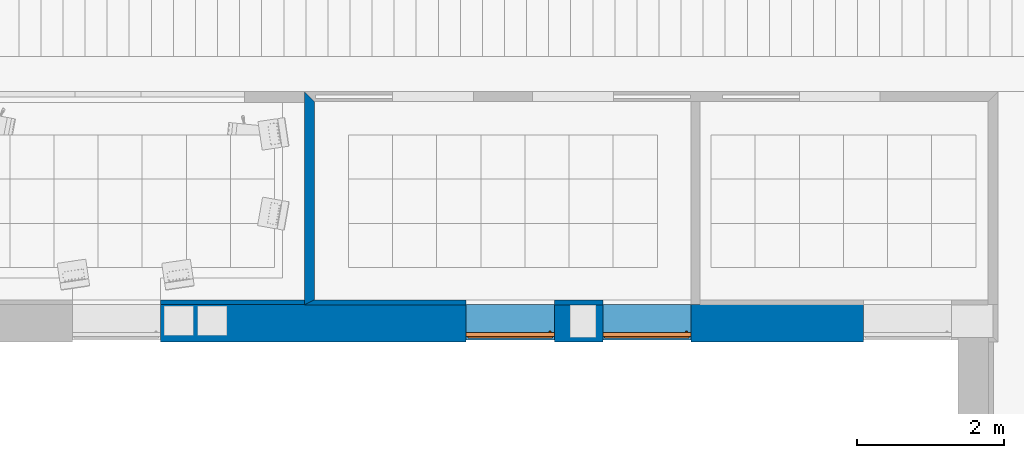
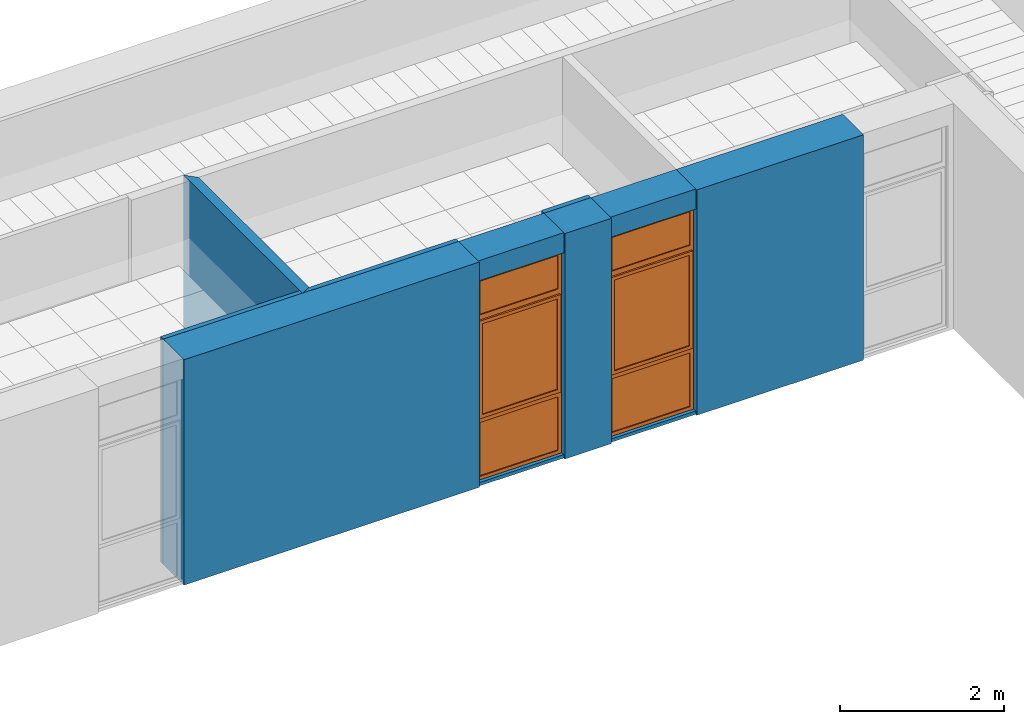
# One storey, part 39 of 68: 9 walls, 2 proxies, 2 openings.
"""IFC2X3 building model written with IfcOpenShell, lengths in millimetres."""

import ifcopenshell
import ifcopenshell.guid

model = None  # the IFC model being written
_history = None  # IfcOwnerHistory: only IFC2X3 demands one
_inside = {}  # id of a spatial element -> (the spatial element, [elements in it])
_under = {}  # id of a project, library or spatial element -> (it, [spatial elements below it])
_declared = {}  # id of a project -> (the project, [libraries it declares])
_typed = {}  # id of a type object -> (the type object, [elements of that type])
_made_of = {}  # id of a material, layer set ... -> (it, [elements and type objects made of it])


def new_model(schema):
    """Start an empty IFC model of exactly this schema.

    Asked for "IFC4X3", IfcOpenShell would pick the latest addendum, in which some entities
    have other attributes; the version numbers below select the first issue.
    IFC2X3 requires an IfcOwnerHistory on every rooted entity: one is made here for all.
    """
    global model, _history
    if schema == "IFC4X3":
        model = ifcopenshell.file(schema_version=(4, 3, 0, 0))
    else:
        model = ifcopenshell.file(schema=schema)
    _inside.clear()
    _under.clear()
    _declared.clear()
    _typed.clear()
    _made_of.clear()
    _history = None
    if model.schema == "IFC2X3":
        org = make("IfcOrganization", Name="unknown")
        user = make(
            "IfcPersonAndOrganization",
            ThePerson=make("IfcPerson", FamilyName="unknown"),
            TheOrganization=org,
        )
        app = make(
            "IfcApplication",
            ApplicationDeveloper=org,
            Version="unknown",
            ApplicationFullName="unknown",
            ApplicationIdentifier="unknown",
        )
        _history = make(
            "IfcOwnerHistory",
            OwningUser=user,
            OwningApplication=app,
            ChangeAction="ADDED",
            CreationDate=0,
        )
    return model


def make(cls, **values):
    """One entity of the class cls with the attributes given. An attribute that is None is left unset."""
    return model.create_entity(
        cls, **{name: value for name, value in values.items() if value is not None}
    )


def entity(cls, *values):
    """Any entity or typed value of the class cls, its attributes in the order of the schema. None: left unset."""
    e = model.create_entity(cls)
    for i, value in enumerate(values):
        if value is not None:
            e[i] = value
    return e


def rooted(cls, **values):
    """An entity with a GlobalId (a new one), such as an element, a storey or a relation."""
    return make(cls, GlobalId=ifcopenshell.guid.new(), OwnerHistory=_history, **values)


def si_unit(unit_type, name, prefix=None):
    """IfcSIUnit, for example si_unit("LENGTHUNIT", "METRE", prefix="MILLI")."""
    return make("IfcSIUnit", UnitType=unit_type, Prefix=prefix, Name=name)


def converted_unit(unit_type, name, factor, base, dimensions=None, offset=None):
    """IfcConversionBasedUnit, such as the inch: factor (a typed value) times the base unit."""
    return make(
        "IfcConversionBasedUnit"
        if offset is None
        else "IfcConversionBasedUnitWithOffset",
        ConversionOffset=offset,
        Dimensions=None
        if dimensions is None
        else entity("IfcDimensionalExponents", *dimensions),
        UnitType=unit_type,
        Name=name,
        ConversionFactor=make(
            "IfcMeasureWithUnit", ValueComponent=factor, UnitComponent=base
        ),
    )


def derived_unit(unit_type, elements):
    """IfcDerivedUnit: a product of units, each with its exponent."""
    return make(
        "IfcDerivedUnit",
        Elements=[
            make("IfcDerivedUnitElement", Unit=unit, Exponent=power)
            for unit, power in elements
        ],
        UnitType=unit_type,
    )


def money_unit(currency):
    """IfcMonetaryUnit."""
    return make("IfcMonetaryUnit", Currency=currency)


def assignment(units):
    """IfcUnitAssignment: the units of a project."""
    return None if units is None else make("IfcUnitAssignment", Units=units)


def point(xyz):
    """IfcCartesianPoint."""
    return None if xyz is None else make("IfcCartesianPoint", Coordinates=xyz)


def direction(xyz):
    """IfcDirection."""
    return None if xyz is None else make("IfcDirection", DirectionRatios=xyz)


def frame(location, z_axis=None, x_axis=None):
    """IfcAxis2Placement3D, a coordinate frame: its origin and axes. An axis left out is left unset."""
    return make(
        "IfcAxis2Placement3D",
        Location=point(location),
        Axis=direction(z_axis),
        RefDirection=direction(x_axis),
    )


def frame_2d(location, x_axis=None):
    """IfcAxis2Placement2D, a coordinate frame in the plane: its origin and x axis."""
    return make(
        "IfcAxis2Placement2D", Location=point(location), RefDirection=direction(x_axis)
    )


def origin_with_axes():
    """The frame at (0, 0, 0) with the z axis (0, 0, 1) and the x axis (1, 0, 0) written out."""
    return frame((0.0, 0.0, 0.0), z_axis=(0.0, 0.0, 1.0), x_axis=(1.0, 0.0, 0.0))


def origin_2d_with_axis():
    """The frame at (0, 0) in the plane with the x axis (1, 0) written out."""
    return frame_2d((0.0, 0.0), x_axis=(1.0, 0.0))


def place(relative_to, where):
    """IfcLocalPlacement: puts the frame where relative to a parent placement (None: the world)."""
    return make(
        "IfcLocalPlacement", PlacementRelTo=relative_to, RelativePlacement=where
    )


def context(
    kind, dimensions, precision=None, world=None, true_north=None, identifier=None
):
    """IfcGeometricRepresentationContext, for example the 3D "Model" context."""
    return make(
        "IfcGeometricRepresentationContext",
        ContextIdentifier=identifier,
        ContextType=kind,
        CoordinateSpaceDimension=dimensions,
        Precision=precision,
        WorldCoordinateSystem=world,
        TrueNorth=true_north,
    )


def subcontext(parent, identifier, kind, view, scale=None):
    """IfcGeometricRepresentationSubContext, for example "Body" below "Model"."""
    return make(
        "IfcGeometricRepresentationSubContext",
        ContextIdentifier=identifier,
        ContextType=kind,
        ParentContext=parent,
        TargetScale=scale,
        TargetView=view,
    )


def project(units=None, contexts=None):
    """IfcProject with its units and contexts."""
    return rooted(
        "IfcProject",
        Name="project",
        RepresentationContexts=contexts,
        UnitsInContext=assignment(units),
    )


def spatial(cls, under=None, at=None, **own):
    """A site, building, storey or space (cls), placed at a placement, below another one or the project."""
    s = rooted(cls, ObjectPlacement=at, **own)
    if under is not None:
        _under.setdefault(under.id(), (under, []))[1].append(s)
    return s


def polyline(points):
    """IfcPolyline through the points."""
    return make("IfcPolyline", Points=[point(p) for p in points])


def profile(cls, at=None, kind="AREA", **sizes):
    """A parametric profile (cls). Its sizes go by their IFC names, for example OverallWidth=200.0."""
    return make(cls, ProfileType=kind, Position=at, **sizes)


def rectangle(**sizes):
    """IfcRectangleProfileDef."""
    return profile("IfcRectangleProfileDef", **sizes)


def outline(outer, holes=None, kind="AREA"):
    """IfcArbitraryClosedProfileDef: a profile drawn as a closed curve; with holes, ...WithVoids."""
    if holes is None:
        return make("IfcArbitraryClosedProfileDef", ProfileType=kind, OuterCurve=outer)
    return make(
        "IfcArbitraryProfileDefWithVoids",
        ProfileType=kind,
        OuterCurve=outer,
        InnerCurves=holes,
    )


def extrude(swept, where, along, depth):
    """IfcExtrudedAreaSolid: the profile swept, set in the frame where, extruded along a direction by depth."""
    return make(
        "IfcExtrudedAreaSolid",
        SweptArea=swept,
        Position=where,
        ExtrudedDirection=direction(along),
        Depth=depth,
    )


def faces_of(points, faces, orient=None, outer=None):
    """IfcFace entities. A face is a list of loops; a loop is a list of indices into points, from 0.

    orient and outer hold one flag for each loop. By default every Orientation is true, the
    first loop of a face is its IfcFaceOuterBound and the others are IfcFaceBound.
    """
    made = []
    for i, loops in enumerate(faces):
        bounds = []
        for j, loop in enumerate(loops):
            is_outer = j == 0 if outer is None else outer[i][j]
            bounds.append(
                make(
                    "IfcFaceOuterBound" if is_outer else "IfcFaceBound",
                    Bound=make("IfcPolyLoop", Polygon=[points[k] for k in loop]),
                    Orientation=True if orient is None else orient[i][j],
                )
            )
        made.append(make("IfcFace", Bounds=bounds))
    return made


def open_shell(faces, orient=None, outer=None):
    """The faces of one IfcOpenShell. surface_model builds it on its shared points."""
    return ("IfcOpenShell", faces, orient, outer)


def faceted_brep(points, faces, orient=None, outer=None, voids=None):
    """IfcFacetedBrep: a solid bounded by flat faces; with voids (closed shells), ...WithVoids."""
    shared = [point(p) for p in points]
    hull = make("IfcClosedShell", CfsFaces=faces_of(shared, faces, orient, outer))
    if voids is None:
        return make("IfcFacetedBrep", Outer=hull)
    return make(
        "IfcFacetedBrepWithVoids",
        Outer=hull,
        Voids=[
            make(cls, CfsFaces=faces_of(shared, fs, o, b)) for cls, fs, o, b in voids
        ],
    )


def surface_model(cls, points, shells):
    """IfcFaceBasedSurfaceModel or IfcShellBasedSurfaceModel (cls): surfaces that need not close."""
    shared = [point(p) for p in points]
    made = [make(c, CfsFaces=faces_of(shared, fs, o, b)) for c, fs, o, b in shells]
    if cls == "IfcFaceBasedSurfaceModel":
        return make(cls, FbsmFaces=made)
    return make(cls, SbsmBoundary=made)


def shape(context_of_items, identifier, shape_type, items):
    """IfcShapeRepresentation: the items that make up one representation, for example the "Body"."""
    return make(
        "IfcShapeRepresentation",
        ContextOfItems=context_of_items,
        RepresentationIdentifier=identifier,
        RepresentationType=shape_type,
        Items=items,
    )


def source(mapping_origin, context_of_items, identifier, shape_type, items):
    """IfcRepresentationMap: a shape defined once, which mapped items show again and again."""
    return make(
        "IfcRepresentationMap",
        MappingOrigin=mapping_origin,
        MappedRepresentation=shape(context_of_items, identifier, shape_type, items),
    )


def transform(
    local_origin,
    x_axis=None,
    y_axis=None,
    z_axis=None,
    scale=None,
    scale2=None,
    scale3=None,
    uniform=True,
):
    """IfcCartesianTransformationOperator3D, or its non-uniform kind. x_axis, y_axis, z_axis: its Axis1, 2, 3."""
    if uniform:
        return make(
            "IfcCartesianTransformationOperator3D",
            Axis1=direction(x_axis),
            Axis2=direction(y_axis),
            LocalOrigin=point(local_origin),
            Scale=scale,
            Axis3=direction(z_axis),
        )
    return make(
        "IfcCartesianTransformationOperator3DnonUniform",
        Axis1=direction(x_axis),
        Axis2=direction(y_axis),
        LocalOrigin=point(local_origin),
        Scale=scale,
        Axis3=direction(z_axis),
        Scale2=scale2,
        Scale3=scale3,
    )


def mapped(mapping_source, mapping_target):
    """IfcMappedItem: shows the shape of a source again, moved by a transform."""
    return make(
        "IfcMappedItem", MappingSource=mapping_source, MappingTarget=mapping_target
    )


def material(Name=None, Category=None):
    """IfcMaterial."""
    return make("IfcMaterial", Name=Name, Category=Category)


def layer(
    of_material, thickness, ventilated=None, Name=None, Category=None, Priority=None
):
    """IfcMaterialLayer: one layer of a wall or slab, of a material (None: an air gap)."""
    return make(
        "IfcMaterialLayer",
        Material=of_material,
        LayerThickness=thickness,
        IsVentilated=ventilated,
        Name=Name,
        Category=Category,
        Priority=Priority,
    )


def layer_set(layers, Name=None):
    """IfcMaterialLayerSet."""
    return make("IfcMaterialLayerSet", MaterialLayers=layers, LayerSetName=Name)


def layer_usage(for_layer_set, set_direction, sense, offset, extent=None):
    """IfcMaterialLayerSetUsage: how a layer set lies in its element."""
    return make(
        "IfcMaterialLayerSetUsage",
        ForLayerSet=for_layer_set,
        LayerSetDirection=set_direction,
        DirectionSense=sense,
        OffsetFromReferenceLine=offset,
        ReferenceExtent=extent,
    )


def made_of(thing, what):
    """Note that an element or type object is made of a material, layer set ...; save() writes the relation."""
    if what is not None:
        _made_of.setdefault(what.id(), (what, []))[1].append(thing)
    return thing


def type_object(cls, material=None, **own):
    """A type object (cls), such as IfcWallType, which elements share."""
    return made_of(rooted(cls, **own), material)


def element(
    cls,
    number,
    at=None,
    inside=None,
    cuts=None,
    type_object=None,
    material=None,
    context=None,
    identifier="Body",
    shape_type=None,
    held_by="IfcProductDefinitionShape",
    body=None,
    shapes=None,
    **own,
):
    """One element of the class cls, such as IfcWall. Its Tag is "e" and its number.

    at: its placement. inside: the storey or other place that contains it. cuts: it is an
    opening in that element (IfcRelVoidsElement). A single representation is given by context,
    identifier, shape_type and body (its items); several are given by shapes. held_by: the class
    of the entity that holds the representations. save() writes the other relations.
    """
    e = rooted(cls, Tag="e%d" % number, ObjectPlacement=at, **own)
    if body is not None:
        shapes = [shape(context, identifier, shape_type, body)]
    if shapes is not None:
        e.Representation = make(held_by, Representations=shapes)
    if inside is not None:
        _inside.setdefault(inside.id(), (inside, []))[1].append(e)
    if cuts is not None:
        rooted(
            "IfcRelVoidsElement", RelatingBuildingElement=cuts, RelatedOpeningElement=e
        )
    if type_object is not None:
        _typed.setdefault(type_object.id(), (type_object, []))[1].append(e)
    return made_of(e, material)


def fill(opening, filler):
    """IfcRelFillsElement: the door or window that sits in an opening."""
    return rooted(
        "IfcRelFillsElement",
        RelatingOpeningElement=opening,
        RelatedBuildingElement=filler,
    )


def aggregate(whole, parts):
    """IfcRelAggregates: a whole, such as a stair, and the parts it consists of."""
    return rooted("IfcRelAggregates", RelatingObject=whole, RelatedObjects=parts)


def save(model, path):
    """Write the relations noted so far, then the file.

    IfcRelAggregates (storeys below a building ...), IfcRelContainedInSpatialStructure (elements
    in a storey), IfcRelDefinesByType, IfcRelAssociatesMaterial and IfcRelDeclares: one each for
    every whole, place, type object, material and project.
    """
    for whole, parts in _under.values():
        aggregate(whole, parts)
    for where, things in _inside.values():
        rooted(
            "IfcRelContainedInSpatialStructure",
            RelatedElements=things,
            RelatingStructure=where,
        )
    for kind, things in _typed.values():
        rooted("IfcRelDefinesByType", RelatedObjects=things, RelatingType=kind)
    for what, things in _made_of.values():
        rooted("IfcRelAssociatesMaterial", RelatedObjects=things, RelatingMaterial=what)
    for by, libraries in _declared.values():
        rooted("IfcRelDeclares", RelatingContext=by, RelatedDefinitions=libraries)
    model.write(path)


model = new_model("IFC2X3")

# Units and contexts
model_context = context("Model", 3, precision=0.01, world=origin_with_axes(), true_north=direction((0.0, 1.0)))
body_context = subcontext(model_context, "Body", "Model", "MODEL_VIEW")
ifc_project = project(units=[si_unit("LENGTHUNIT", "METRE", prefix="MILLI"), si_unit("AREAUNIT", "SQUARE_METRE"), si_unit("VOLUMEUNIT", "CUBIC_METRE"), converted_unit("PLANEANGLEUNIT", "DEGREE", entity("IfcPlaneAngleMeasure", 0.0174532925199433), si_unit("PLANEANGLEUNIT", "RADIAN"), dimensions=[0, 0, 0, 0, 0, 0, 0]), money_unit("USD"), converted_unit("TIMEUNIT", "Year", entity("IfcTimeMeasure", 31557600.0), si_unit("TIMEUNIT", "SECOND"), dimensions=[0, 0, 1, 0, 0, 0, 0]), si_unit("MASSUNIT", "GRAM", prefix="KILO"), si_unit("THERMODYNAMICTEMPERATUREUNIT", "DEGREE_CELSIUS"), si_unit("LUMINOUSINTENSITYUNIT", "LUMEN"), si_unit("ENERGYUNIT", "JOULE", prefix="MEGA"), derived_unit("THERMALCONDUCTANCEUNIT", [(si_unit("POWERUNIT", "WATT"), 1), (si_unit("LENGTHUNIT", "METRE"), -1), (si_unit("THERMODYNAMICTEMPERATUREUNIT", "KELVIN"), -1)]), derived_unit("SPECIFICHEATCAPACITYUNIT", [(si_unit("ENERGYUNIT", "JOULE"), 1), (si_unit("MASSUNIT", "GRAM", prefix="KILO"), -1), (si_unit("THERMODYNAMICTEMPERATUREUNIT", "KELVIN"), -1)]), derived_unit("MASSDENSITYUNIT", [(si_unit("MASSUNIT", "GRAM", prefix="KILO"), 1), (si_unit("VOLUMEUNIT", "CUBIC_METRE"), -1)])], contexts=[model_context])

# Site, building, storey
site_placement = place(None, origin_with_axes())
site = spatial("IfcSite", under=ifc_project, at=site_placement, Name="Sitio", CompositionType="ELEMENT")
building_placement = place(site_placement, origin_with_axes())
building = spatial("IfcBuilding", under=site, at=building_placement, Name="Construcción", CompositionType="ELEMENT")
storey_placement = place(building_placement, origin_with_axes())
storey = spatial("IfcBuildingStorey", under=building, at=storey_placement, Name="PLANTA 1ª", CompositionType="ELEMENT", Elevation=0.0)

# Wall, opening, proxy
ifc_material_1 = material(Name="ARQ_AM246_Arrebossat_De_Guix")
ifc_layer_1 = layer(ifc_material_1, 10.0, ventilated="UNKNOWN")
ifc_material_2 = material(Name="ARQ_CE217_Gero")
ifc_layer_2 = layer(ifc_material_2, 120.0, ventilated="UNKNOWN")
ifc_material_3 = material(Name="ARQ_AI031_Aillament_Poliestireno expandido EPS")
ifc_layer_3 = layer(ifc_material_3, 120.0, ventilated="UNKNOWN")
ifc_material_4 = material(Name="ARQ_CE218_Ceramic")
ifc_layer_4 = layer(ifc_material_4, 220.0, ventilated="UNKNOWN")
ifc_layer_5 = layer(ifc_material_1, 10.0, ventilated="UNKNOWN")
ifc_layer_set_1 = layer_set([ifc_layer_1, ifc_layer_2, ifc_layer_3, ifc_layer_4, ifc_layer_5], Name="façana pati CR2 (ampit)")
ifc_layer_usage_1 = layer_usage(ifc_layer_set_1, "AXIS2", "POSITIVE", -480.0)
wall_type_1 = type_object("IfcWallType", Name="façana pati CR2 (ampit) 480", PredefinedType="NOTDEFINED")
wall_1_placement = place(storey_placement, frame((-8781.931355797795, -1193.975823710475, 0.0), z_axis=(0.0, 0.0, 1.0), x_axis=(1.0, 0.0, 0.0)))
wall_1 = element("IfcWallStandardCase", 1, at=wall_1_placement, inside=storey, type_object=wall_type_1, material=ifc_layer_usage_1, Name="MS-200", context=body_context, shape_type="SweptSolid", body=[
    extrude(outline(polyline([(0.0, -480.0), (1199.999999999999, -480.0), (1199.999999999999, 0.0), (0.0, 0.0), (0.0, -480.0)])), origin_with_axes(), (0.0, 0.0, 1.0), 3350.0),
])
opening_1_placement = place(wall_1_placement, frame((599.9999999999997, 0.0, 50.0), z_axis=(0.0, 0.0, 1.0), x_axis=(1.0, 0.0, 0.0)))
opening_1 = element("IfcOpeningElement", 2, at=opening_1_placement, cuts=wall_1, Name="F01", context=body_context, shape_type="SweptSolid", body=[
    extrude(rectangle(XDim=1199.999999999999, YDim=3000.0, at=origin_2d_with_axis()), frame((0.0, -429.9999999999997, 1500.0), z_axis=(0.0, -1.0, 0.0), x_axis=(-1.0, 0.0, 0.0)), (0.0, 0.0, -1.0), 909.9999999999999),
    extrude(rectangle(XDim=1199.999999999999, YDim=3000.0, at=origin_2d_with_axis()), frame((0.0, -429.9999999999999, 1500.0), z_axis=(0.0, 1.0, 0.0), x_axis=(-1.0, 0.0, 0.0)), (0.0, 0.0, -1.0), 530.0),
])
building_element_proxy_type = type_object("IfcBuildingElementProxyType", Name="Ventana Vertical Multi-Faja 27", PredefinedType="NOTDEFINED")
shared_shape = source(origin_with_axes(), body_context, "Body", "SurfaceModel", [
    faceted_brep([(-575.0, 0.0, 925.0), (-549.9999999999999, 0.0, 925.0), (-549.9999999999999, 0.0, 850.0), (-549.9999999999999, 0.0, 50.00000000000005), (-600.0, 0.0, 50.00000000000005), (-600.0, 0.0, 2950.0), (-549.9999999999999, 0.0, 2950.0), (-549.9999999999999, 0.0, 2450.0), (-549.9999999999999, 0.0, 2375.0), (-575.0, 0.0, 2375.0), (-575.0, -25.00000000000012, 925.0), (-549.9999999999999, -25.00000000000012, 925.0), (-549.9999999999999, -25.00000000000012, 950.0000000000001), (-549.9999999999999, -50.00000000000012, 950.0000000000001), (-549.9999999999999, -50.00000000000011, 850.0), (-549.9999999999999, -50.00000000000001, 50.00000000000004), (-600.0, -50.00000000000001, 50.00000000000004), (-600.0, -50.00000000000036, 2950.0), (-549.9999999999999, -50.00000000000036, 2950.0), (-549.9999999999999, -50.0000000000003, 2450.0), (-550.0, -25.00000000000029, 2375.0), (-549.9999999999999, -50.00000000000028, 2350.0), (-549.9999999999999, -25.00000000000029, 2350.0), (-575.0, -25.00000000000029, 2375.0)], [[[0, 1, 2, 3, 4, 5, 6, 7, 8, 9]], [[0, 10, 11, 1]], [[11, 12, 13, 14, 2, 1]], [[3, 2, 14, 15]], [[4, 3, 15, 16]], [[5, 4, 16, 17]], [[6, 5, 17, 18]], [[7, 6, 18, 19]], [[20, 8, 7, 19, 21, 22]], [[20, 23, 9, 8]], [[9, 23, 10, 0]], [[22, 12, 11, 10, 23, 20]], [[22, 21, 13, 12]], [[17, 16, 15, 14, 13, 21, 19, 18]]]),
    faceted_brep([(575.0, 0.0, 925.0), (575.0, 0.0, 2375.0), (549.9999999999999, 0.0, 2375.0), (549.9999999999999, 0.0, 2450.0), (549.9999999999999, 0.0, 2950.0), (600.0, 0.0, 2950.0), (600.0, 0.0, 50.00000000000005), (549.9999999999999, 0.0, 50.00000000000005), (549.9999999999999, 0.0, 850.0), (549.9999999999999, 0.0, 925.0), (575.0, -25.00000000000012, 925.0), (575.0, -25.00000000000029, 2375.0), (549.9999999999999, -25.00000000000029, 2375.0), (549.9999999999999, -25.00000000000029, 2350.0), (549.9999999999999, -50.00000000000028, 2350.0), (549.9999999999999, -50.0000000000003, 2450.0), (549.9999999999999, -50.00000000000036, 2950.0), (600.0, -50.00000000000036, 2950.0), (600.0, -50.00000000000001, 50.00000000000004), (549.9999999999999, -50.00000000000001, 50.00000000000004), (549.9999999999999, -50.00000000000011, 850.0), (550.0, -25.00000000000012, 925.0), (549.9999999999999, -50.00000000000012, 950.0000000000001), (549.9999999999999, -25.00000000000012, 950.0000000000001)], [[[0, 1, 2, 3, 4, 5, 6, 7, 8, 9]], [[0, 10, 11, 1]], [[1, 11, 12, 2]], [[12, 13, 14, 15, 3, 2]], [[4, 3, 15, 16]], [[5, 4, 16, 17]], [[6, 5, 17, 18]], [[7, 6, 18, 19]], [[8, 7, 19, 20]], [[21, 9, 8, 20, 22, 23]], [[9, 21, 10, 0]], [[12, 11, 10, 21, 23, 13]], [[23, 22, 14, 13]], [[14, 22, 20, 19, 18, 17, 16, 15]]]),
    faceted_brep([(-549.9999999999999, -25.00000000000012, 950.0000000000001), (-549.9999999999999, -50.00000000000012, 950.0000000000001), (549.9999999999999, -50.00000000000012, 950.0000000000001), (549.9999999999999, -25.00000000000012, 950.0000000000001), (-549.9999999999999, -25.00000000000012, 925.0), (-549.9999999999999, 0.0, 925.0), (-549.9999999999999, 0.0, 850.0), (-549.9999999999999, -50.00000000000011, 850.0), (549.9999999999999, -50.00000000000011, 850.0), (550.0, -25.00000000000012, 925.0), (549.9999999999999, 0.0, 850.0), (549.9999999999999, 0.0, 925.0)], [[[0, 1, 2, 3]], [[4, 5, 6, 7, 1, 0]], [[1, 7, 8, 2]], [[9, 3, 2, 8, 10, 11]], [[9, 4, 0, 3]], [[5, 4, 9, 11]], [[11, 10, 6, 5]], [[6, 10, 8, 7]]]),
    faceted_brep([(-549.9999999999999, 0.0, 2375.0), (-549.9999999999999, 0.0, 2450.0), (549.9999999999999, 0.0, 2450.0), (549.9999999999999, 0.0, 2375.0), (-550.0, -25.00000000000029, 2375.0), (-549.9999999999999, -25.00000000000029, 2350.0), (-549.9999999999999, -50.00000000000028, 2350.0), (-549.9999999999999, -50.0000000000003, 2450.0), (549.9999999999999, -50.0000000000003, 2450.0), (549.9999999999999, -25.00000000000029, 2375.0), (549.9999999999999, -50.00000000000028, 2350.0), (549.9999999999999, -25.00000000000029, 2350.0)], [[[0, 1, 2, 3]], [[4, 5, 6, 7, 1, 0]], [[2, 1, 7, 8]], [[9, 3, 2, 8, 10, 11]], [[9, 4, 0, 3]], [[11, 5, 4, 9]], [[11, 10, 6, 5]], [[7, 6, 10, 8]]]),
    faceted_brep([(549.9999999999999, -50.00000000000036, 2950.0), (549.9999999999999, 0.0, 2950.0), (600.0, 0.0, 2950.0), (600.0, -50.00000000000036, 2950.0), (-549.9999999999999, -50.00000000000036, 2950.0), (-549.9999999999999, 0.0, 2950.0), (-600.0, 0.0, 2950.0), (-600.0, 0.0, 3000.0), (600.0, 0.0, 3000.0), (600.0, -50.00000000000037, 3000.0), (-600.0, -50.00000000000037, 3000.0), (-600.0, -50.00000000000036, 2950.0)], [[[0, 1, 2, 3]], [[4, 5, 1, 0]], [[1, 5, 6, 7, 8, 2]], [[3, 2, 8, 9]], [[0, 3, 9, 10, 11, 4]], [[11, 6, 5, 4]], [[10, 7, 6, 11]], [[9, 8, 7, 10]]]),
    faceted_brep([(-549.9999999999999, -50.00000000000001, 50.0), (-549.9999999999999, 0.0, 50.00000000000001), (-600.0, 0.0, 50.00000000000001), (-600.0, -50.00000000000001, 50.0), (549.9999999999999, -50.00000000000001, 50.0), (549.9999999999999, 0.0, 50.00000000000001), (600.0, 0.0, 50.00000000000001), (600.0, 0.0, 0.0), (-600.0, 0.0, 0.0), (-600.0, -50.0, 0.0), (600.0, -50.0, 0.0), (600.0, -50.00000000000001, 50.0)], [[[0, 1, 2, 3]], [[4, 5, 1, 0]], [[1, 5, 6, 7, 8, 2]], [[3, 2, 8, 9]], [[0, 3, 9, 10, 11, 4]], [[11, 6, 5, 4]], [[10, 7, 6, 11]], [[9, 8, 7, 10]]]),
    surface_model("IfcShellBasedSurfaceModel", [(-549.9999999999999, -35.0, 49.99999999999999), (549.9999999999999, -35.0, 49.99999999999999), (549.9999999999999, -35.0000000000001, 850.0), (-549.9999999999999, -35.0000000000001, 850.0)], [open_shell([[[0, 1, 2, 3]]])]),
    surface_model("IfcShellBasedSurfaceModel", [(-549.9999999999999, -15.0, 49.99999999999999), (-549.9999999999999, -15.0000000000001, 850.0), (549.9999999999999, -15.0000000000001, 850.0), (549.9999999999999, -15.0, 49.99999999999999)], [open_shell([[[0, 1, 2, 3]]])]),
    faceted_brep([(-521.5, -25.00000000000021, 1677.0), (-522.8397459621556, -25.00000000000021, 1682.0), (-522.8397459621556, -37.00000000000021, 1682.0), (-521.5, -37.00000000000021, 1677.0), (-521.5, -25.0000000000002, 1623.0), (-522.8397459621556, -25.0000000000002, 1618.0), (-526.5, -25.0000000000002, 1614.339745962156), (-531.5, -25.0000000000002, 1613.0), (-543.5, -25.0000000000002, 1613.0), (-548.5, -25.0000000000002, 1614.339745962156), (-552.1602540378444, -25.0000000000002, 1618.0), (-553.5, -25.0000000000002, 1623.0), (-553.5, -25.00000000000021, 1677.0), (-552.1602540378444, -25.00000000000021, 1682.0), (-548.5, -25.00000000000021, 1685.660254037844), (-543.5, -25.00000000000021, 1687.0), (-531.5, -25.00000000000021, 1687.0), (-526.5, -25.00000000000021, 1685.660254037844), (-526.5, -37.00000000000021, 1685.660254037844), (-531.5, -37.00000000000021, 1687.0), (-543.5, -37.00000000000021, 1687.0), (-548.5, -37.00000000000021, 1685.660254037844), (-552.1602540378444, -37.00000000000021, 1682.0), (-553.5, -37.00000000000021, 1677.0), (-553.5, -37.0000000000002, 1623.0), (-552.1602540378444, -37.0000000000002, 1618.0), (-548.5, -37.0000000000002, 1614.339745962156), (-543.5, -37.0000000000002, 1613.0), (-531.5, -37.0000000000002, 1613.0), (-526.5, -37.0000000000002, 1614.339745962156), (-522.8397459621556, -37.0000000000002, 1618.0), (-521.5, -37.0000000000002, 1623.0)], [[[0, 1, 2, 3]], [[0, 4, 5, 6, 7, 8, 9, 10, 11, 12, 13, 14, 15, 16, 17, 1]], [[1, 17, 18, 2]], [[3, 2, 18, 19, 20, 21, 22, 23, 24, 25, 26, 27, 28, 29, 30, 31]], [[4, 0, 3, 31]], [[5, 4, 31, 30]], [[6, 5, 30, 29]], [[7, 6, 29, 28]], [[8, 7, 28, 27]], [[9, 8, 27, 26]], [[10, 9, 26, 25]], [[11, 10, 25, 24]], [[12, 11, 24, 23]], [[13, 12, 23, 22]], [[14, 13, 22, 21]], [[15, 14, 21, 20]], [[16, 15, 20, 19]], [[17, 16, 19, 18]]]),
    faceted_brep([(-537.5, -37.0000000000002, 1663.5), (-544.25, -37.0000000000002, 1661.69134295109), (-544.25, -61.00000000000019, 1661.69134295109), (-537.5, -61.00000000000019, 1663.5), (-530.75, -37.0000000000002, 1661.69134295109), (-525.80865704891, -37.0000000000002, 1656.75), (-524.0, -37.0000000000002, 1650.0), (-525.8086570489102, -37.0000000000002, 1643.25), (-530.75, -37.0000000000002, 1638.30865704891), (-537.5, -37.0000000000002, 1636.5), (-544.25, -37.0000000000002, 1638.30865704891), (-549.19134295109, -37.0000000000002, 1643.25), (-550.9999999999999, -37.0000000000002, 1650.0), (-549.1913429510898, -37.0000000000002, 1656.75), (-549.1913429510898, -61.00000000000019, 1656.75), (-550.9999999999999, -61.00000000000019, 1650.0), (-549.19134295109, -61.00000000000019, 1643.25), (-544.25, -61.00000000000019, 1638.30865704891), (-537.5, -61.00000000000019, 1636.5), (-530.75, -61.00000000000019, 1638.30865704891), (-525.8086570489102, -61.00000000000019, 1643.25), (-524.0, -61.00000000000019, 1650.0), (-525.80865704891, -61.00000000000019, 1656.75), (-530.75, -61.00000000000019, 1661.69134295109)], [[[0, 1, 2, 3]], [[0, 4, 5, 6, 7, 8, 9, 10, 11, 12, 13, 1]], [[1, 13, 14, 2]], [[3, 2, 14, 15, 16, 17, 18, 19, 20, 21, 22, 23]], [[4, 0, 3, 23]], [[5, 4, 23, 22]], [[6, 5, 22, 21]], [[7, 6, 21, 20]], [[8, 7, 20, 19]], [[9, 8, 19, 18]], [[10, 9, 18, 17]], [[11, 10, 17, 16]], [[12, 11, 16, 15]], [[13, 12, 15, 14]]]),
    faceted_brep([(-526.0, -61.00000000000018, 1543.0), (-537.5, -61.00000000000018, 1540.0), (-548.9999999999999, -61.00000000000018, 1543.0), (-550.9999999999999, -61.00000000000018, 1546.0), (-550.9999999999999, -61.00000000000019, 1650.0), (-549.1913429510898, -61.00000000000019, 1656.75), (-544.25, -61.00000000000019, 1661.69134295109), (-537.5, -61.00000000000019, 1663.5), (-530.75, -61.00000000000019, 1661.69134295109), (-525.80865704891, -61.00000000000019, 1656.75), (-524.0, -61.00000000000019, 1650.0), (-524.0, -61.00000000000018, 1546.0), (-525.9999999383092, -69.00000000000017, 1543.000000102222), (-537.499999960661, -69.00000000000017, 1539.999999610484), (-548.9999999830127, -69.00000000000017, 1543.000000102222), (-551.0000003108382, -69.00000000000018, 1545.999999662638), (-551.0000003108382, -69.0000000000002, 1649.99999994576), (-549.1913429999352, -69.0000000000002, 1656.749999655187), (-544.2499996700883, -69.0000000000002, 1661.691342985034), (-537.499999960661, -69.0000000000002, 1663.500000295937), (-530.7500002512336, -69.0000000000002, 1661.691342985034), (-525.8086569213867, -69.0000000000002, 1656.749999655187), (-523.9999996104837, -69.0000000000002, 1649.99999994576), (-523.9999996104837, -69.00000000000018, 1545.999999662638), (-527.8625374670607, -71.99999956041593, 1545.61451963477), (-537.499999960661, -71.99999956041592, 1543.100398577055), (-547.1374624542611, -71.99999956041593, 1545.61451963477), (-548.0000007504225, -71.99999956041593, 1546.908326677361), (-548.0000007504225, -71.99999956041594, 1649.605042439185), (-546.5016170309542, -71.99999956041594, 1655.197085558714), (-542.6970855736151, -71.99999956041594, 1659.001617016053), (-537.499999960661, -71.99999956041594, 1660.394172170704), (-532.3029143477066, -71.99999956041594, 1659.001617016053), (-528.4983828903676, -71.99999956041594, 1655.197085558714), (-526.9999991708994, -71.99999956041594, 1649.605042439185), (-526.9999991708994, -71.99999956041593, 1546.908326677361)], [[[0, 1, 2, 3, 4, 5, 6, 7, 8, 9, 10, 11]], [[1, 0, 12, 13]], [[2, 1, 13, 14]], [[3, 2, 14, 15]], [[4, 3, 15, 16]], [[5, 4, 16, 17]], [[6, 5, 17, 18]], [[7, 6, 18, 19]], [[8, 7, 19, 20]], [[9, 8, 20, 21]], [[10, 9, 21, 22]], [[11, 10, 22, 23]], [[0, 11, 23, 12]], [[13, 12, 24, 25]], [[14, 13, 25, 26]], [[15, 14, 26, 27]], [[16, 15, 27, 28]], [[17, 16, 28, 29]], [[18, 17, 29, 30]], [[19, 18, 30, 31]], [[20, 19, 31, 32]], [[21, 20, 32, 33]], [[22, 21, 33, 34]], [[23, 22, 34, 35]], [[12, 23, 35, 24]], [[26, 25, 24, 35, 34, 33, 32, 31, 30, 29, 28, 27]]]),
    faceted_brep([(-524.9999999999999, -25.00000000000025, 2325.0), (-524.9999999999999, 24.99999999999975, 2325.0), (-575.0, 24.99999999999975, 2325.0), (-575.0, -25.00000000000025, 2325.0), (-524.9999999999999, -25.00000000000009, 975.0000000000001), (-524.9999999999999, 24.99999999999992, 975.0000000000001), (-575.0, 24.99999999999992, 975.0000000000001), (-575.0, -25.00000000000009, 975.0000000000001)], [[[0, 1, 2, 3]], [[4, 5, 1, 0]], [[1, 5, 6, 2]], [[3, 2, 6, 7]], [[0, 3, 7, 4]], [[7, 6, 5, 4]]]),
    faceted_brep([(524.9999999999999, -25.00000000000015, 975.0000000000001), (524.9999999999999, 24.99999999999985, 975.0000000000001), (575.0, 24.99999999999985, 975.0000000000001), (575.0, -25.00000000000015, 975.0000000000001), (524.9999999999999, -25.00000000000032, 2325.0), (524.9999999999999, 24.99999999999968, 2325.0), (575.0, 24.99999999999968, 2325.0), (575.0, -25.00000000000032, 2325.0)], [[[0, 1, 2, 3]], [[4, 5, 1, 0]], [[1, 5, 6, 2]], [[3, 2, 6, 7]], [[0, 3, 7, 4]], [[7, 6, 5, 4]]]),
    faceted_brep([(575.0, -25.00000000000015, 925.0), (575.0, 24.99999999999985, 925.0), (575.0, 24.99999999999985, 975.0000000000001), (575.0, -25.00000000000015, 975.0000000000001), (-575.0, -25.00000000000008, 925.0), (-575.0, 24.99999999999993, 925.0), (-575.0, 24.99999999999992, 975.0000000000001), (-524.9999999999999, 24.99999999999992, 975.0000000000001), (524.9999999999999, 24.99999999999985, 975.0000000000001), (524.9999999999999, -25.00000000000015, 975.0000000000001), (-524.9999999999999, -25.00000000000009, 975.0000000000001), (-575.0, -25.00000000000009, 975.0000000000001)], [[[0, 1, 2, 3]], [[4, 5, 1, 0]], [[1, 5, 6, 7, 8, 2]], [[3, 2, 8, 9]], [[0, 3, 9, 10, 11, 4]], [[11, 6, 5, 4]], [[10, 7, 6, 11]], [[9, 8, 7, 10]]]),
    faceted_brep([(-575.0, -25.00000000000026, 2375.0), (-575.0, 24.99999999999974, 2375.0), (-575.0, 24.99999999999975, 2325.0), (-575.0, -25.00000000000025, 2325.0), (575.0, -25.00000000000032, 2375.0), (575.0, 24.99999999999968, 2375.0), (575.0, 24.99999999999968, 2325.0), (524.9999999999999, 24.99999999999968, 2325.0), (-524.9999999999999, 24.99999999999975, 2325.0), (-524.9999999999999, -25.00000000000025, 2325.0), (524.9999999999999, -25.00000000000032, 2325.0), (575.0, -25.00000000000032, 2325.0)], [[[0, 1, 2, 3]], [[4, 5, 1, 0]], [[1, 5, 6, 7, 8, 2]], [[3, 2, 8, 9]], [[0, 3, 9, 10, 11, 4]], [[11, 6, 5, 4]], [[10, 7, 6, 11]], [[9, 8, 7, 10]]]),
    surface_model("IfcShellBasedSurfaceModel", [(-524.9999999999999, -10.00000000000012, 975.0000000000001), (524.9999999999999, -10.00000000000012, 975.0000000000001), (524.9999999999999, -10.00000000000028, 2325.0), (-524.9999999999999, -10.00000000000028, 2325.0)], [open_shell([[[0, 1, 2, 3]]])]),
    surface_model("IfcShellBasedSurfaceModel", [(-524.9999999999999, 9.999999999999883, 975.0000000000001), (-524.9999999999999, 9.99999999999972, 2325.0), (524.9999999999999, 9.99999999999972, 2325.0), (524.9999999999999, 9.999999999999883, 975.0000000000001)], [open_shell([[[0, 1, 2, 3]]])]),
    surface_model("IfcShellBasedSurfaceModel", [(-549.9999999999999, -35.0000000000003, 2450.0), (549.9999999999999, -35.0000000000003, 2450.0), (549.9999999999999, -35.00000000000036, 2950.0), (-549.9999999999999, -35.00000000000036, 2950.0)], [open_shell([[[0, 1, 2, 3]]])]),
    surface_model("IfcShellBasedSurfaceModel", [(-549.9999999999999, -15.0000000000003, 2450.0), (-549.9999999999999, -15.00000000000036, 2950.0), (549.9999999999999, -15.00000000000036, 2950.0), (549.9999999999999, -15.0000000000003, 2450.0)], [open_shell([[[0, 1, 2, 3]]])]),
])
proxy_1_placement = place(opening_1_placement, frame((599.9999999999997, 0.0, 0.0), z_axis=(0.0, 0.0, 1.0), x_axis=(-1.0, 0.0, 0.0)))
proxy_1 = element("IfcBuildingElementProxy", 3, at=proxy_1_placement, inside=storey, type_object=building_element_proxy_type, Name="F01", context=body_context, shape_type="MappedRepresentation", body=[
    mapped(shared_shape, transform((599.9999999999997, 429.9999999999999, 0.0))),
])
fill(opening_1, proxy_1)

ifc_layer_usage_2 = layer_usage(ifc_layer_set_1, "AXIS2", "POSITIVE", -480.0)
wall_2_placement = place(storey_placement, frame((-6925.999673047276, -1193.975823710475, 0.0), z_axis=(0.0, 0.0, 1.0), x_axis=(1.0, 0.0, 0.0)))
wall_2 = element("IfcWallStandardCase", 4, at=wall_2_placement, inside=storey, type_object=wall_type_1, material=ifc_layer_usage_2, Name="MS-200", context=body_context, shape_type="SweptSolid", body=[
    extrude(outline(polyline([(0.0, -480.0), (1199.999999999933, -480.0), (1199.999999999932, 0.0), (0.0, 0.0), (0.0, -480.0)])), origin_with_axes(), (0.0, 0.0, 1.0), 3350.0),
])
opening_2_placement = place(wall_2_placement, frame((599.9999999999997, 0.0, 50.0), z_axis=(0.0, 0.0, 1.0), x_axis=(1.0, 0.0, 0.0)))
opening_2 = element("IfcOpeningElement", 5, at=opening_2_placement, cuts=wall_2, Name="F01", context=body_context, shape_type="SweptSolid", body=[
    extrude(rectangle(XDim=1199.999999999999, YDim=3000.0, at=origin_2d_with_axis()), frame((0.0, -429.9999999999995, 1500.0), z_axis=(0.0, -1.0, 0.0), x_axis=(-1.0, 0.0, 0.0)), (0.0, 0.0, -1.0), 909.9999999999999),
    extrude(rectangle(XDim=1199.999999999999, YDim=3000.0, at=origin_2d_with_axis()), frame((0.0, -429.9999999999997, 1500.0), z_axis=(0.0, 1.0, 0.0), x_axis=(-1.0, 0.0, 0.0)), (0.0, 0.0, -1.0), 530.0),
])
proxy_2_placement = place(opening_2_placement, frame((599.9999999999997, 0.0, 0.0), z_axis=(0.0, 0.0, 1.0), x_axis=(-1.0, 0.0, 0.0)))
proxy_2 = element("IfcBuildingElementProxy", 6, at=proxy_2_placement, inside=storey, type_object=building_element_proxy_type, Name="F01", context=body_context, shape_type="MappedRepresentation", body=[
    mapped(shared_shape, transform((599.9999999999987, 429.9999999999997, 0.0))),
])
fill(opening_2, proxy_2)

# Walls
ifc_layer_6 = layer(ifc_material_2, 10.0, ventilated="UNKNOWN")
ifc_layer_7 = layer(ifc_material_2, 90.0, ventilated="UNKNOWN")
ifc_layer_8 = layer(ifc_material_3, 180.0, ventilated="UNKNOWN")
ifc_layer_9 = layer(ifc_material_4, 215.0, ventilated="UNKNOWN")
ifc_layer_10 = layer(ifc_material_1, 10.0, ventilated="UNKNOWN")
ifc_layer_set_2 = layer_set([ifc_layer_6, ifc_layer_7, ifc_layer_8, ifc_layer_9, ifc_layer_10], Name="façana pati CR2")
ifc_layer_usage_3 = layer_usage(ifc_layer_set_2, "AXIS2", "POSITIVE", -505.0)
wall_type_2 = type_object("IfcWallType", Name="façana pati CR2 505", PredefinedType="NOTDEFINED")
wall_3_placement = place(storey_placement, frame((-12935.93135579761, -1193.975823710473, 0.0), z_axis=(0.0, 0.0, 1.0), x_axis=(1.0, 0.0, 0.0)))
element("IfcWallStandardCase", 7, at=wall_3_placement, inside=storey, type_object=wall_type_2, material=ifc_layer_usage_3, Name="MS-200", context=body_context, shape_type="SweptSolid", body=[
    extrude(outline(polyline([(0.0, -505.0000000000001), (4153.999999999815, -505.0000000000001), (4153.999999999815, 0.0), (0.0, 0.0), (0.0, -505.0000000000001)])), origin_with_axes(), (0.0, 0.0, 1.0), 3350.0),
])
ifc_layer_usage_4 = layer_usage(ifc_layer_set_2, "AXIS2", "POSITIVE", -505.0)
wall_4_placement = place(storey_placement, frame((-7581.931355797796, -1193.975823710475, 0.0), z_axis=(0.0, 0.0, 1.0), x_axis=(1.0, 0.0, 0.0)))
element("IfcWallStandardCase", 8, at=wall_4_placement, inside=storey, type_object=wall_type_2, material=ifc_layer_usage_4, Name="MS-200", context=body_context, shape_type="SweptSolid", body=[
    extrude(outline(polyline([(0.0, -504.9999999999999), (655.9316827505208, -505.0000000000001), (655.9316827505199, 0.0), (0.0, 0.0), (0.0, -504.9999999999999)])), origin_with_axes(), (0.0, 0.0, 1.0), 3350.0),
])
ifc_layer_usage_5 = layer_usage(ifc_layer_set_2, "AXIS2", "POSITIVE", -505.0)
wall_5_placement = place(storey_placement, frame((-5725.999673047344, -1193.975823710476, 0.0), z_axis=(0.0, 0.0, 1.0), x_axis=(1.0, 0.0, 0.0)))
element("IfcWallStandardCase", 9, at=wall_5_placement, inside=storey, type_object=wall_type_2, material=ifc_layer_usage_5, Name="MS-200", context=body_context, shape_type="SweptSolid", body=[
    extrude(outline(polyline([(0.0, -505.0000000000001), (2342.56831724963, -504.9999999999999), (2342.56831724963, 0.0), (0.0, 0.0), (0.0, -505.0000000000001)])), origin_with_axes(), (0.0, 0.0, 1.0), 3350.0),
])
ifc_material_5 = material(Name="Panel de Yeso Laminado")
ifc_layer_11 = layer(ifc_material_5, 13.0, ventilated="UNKNOWN")
ifc_layer_12 = layer(ifc_material_5, 13.0, ventilated="UNKNOWN")
ifc_material_6 = material(Name="ARQ_AI033_Aillament_Llana_De_Roca")
ifc_layer_13 = layer(ifc_material_6, 70.0, ventilated="UNKNOWN")
ifc_layer_14 = layer(ifc_material_5, 13.0, ventilated="UNKNOWN")
ifc_layer_15 = layer(ifc_material_5, 13.0, ventilated="UNKNOWN")
ifc_material_7 = material(Name="ARQ_EN271_Camara_Aire")
ifc_layer_16 = layer(ifc_material_7, 6.0, ventilated="UNKNOWN")
ifc_material_8 = material(Name="ARQ_FU093_Panellat_HPL")
ifc_layer_17 = layer(ifc_material_8, 6.0, ventilated="UNKNOWN")
ifc_layer_set_3 = layer_set([ifc_layer_11, ifc_layer_12, ifc_layer_13, ifc_layer_14, ifc_layer_15, ifc_layer_16, ifc_layer_17], Name="CR Pladur 70 HPL 1 cara")
ifc_layer_usage_6 = layer_usage(ifc_layer_set_3, "AXIS2", "POSITIVE", 0.0)
wall_type_3 = type_object("IfcWallType", Name="CR Pladur 70 HPL 1 cara 134", PredefinedType="NOTDEFINED")
wall_6_placement = place(storey_placement, frame((-10845.8481802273, -1128.975823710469, 0.0), z_axis=(0.0, 0.0, 1.0), x_axis=(0.0, 1.0, 0.0)))
element("IfcWallStandardCase", 10, at=wall_6_placement, inside=storey, type_object=wall_type_3, material=ifc_layer_usage_6, Name="MS-213", context=body_context, shape_type="SweptSolid", body=[
    extrude(outline(polyline([(0.0, 0.0), (2695.828879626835, 0.0), (2829.828879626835, 134.0000000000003), (-66.00000000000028, 134.0000000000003), (0.0, 0.0)])), origin_with_axes(), (0.0, 0.0, 1.0), 3350.0),
])
ifc_layer_18 = layer(ifc_material_8, 6.0, ventilated="UNKNOWN")
ifc_layer_19 = layer(ifc_material_7, 6.0, ventilated="UNKNOWN")
ifc_layer_20 = layer(ifc_material_5, 13.0, ventilated="UNKNOWN")
ifc_layer_21 = layer(ifc_material_6, 40.0, ventilated="UNKNOWN")
ifc_layer_set_4 = layer_set([ifc_layer_18, ifc_layer_19, ifc_layer_20, ifc_layer_21], Name="Pladur Tras 40 / 1N +HPL")
ifc_layer_usage_7 = layer_usage(ifc_layer_set_4, "AXIS2", "NEGATIVE", 0.0)
wall_type_4 = type_object("IfcWallType", Name="Pladur Tras 40 / 1N +HPL 65", PredefinedType="NOTDEFINED")
wall_7_placement = place(storey_placement, frame((-12935.93135579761, -1128.975823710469, 0.0), z_axis=(0.0, 0.0, 1.0), x_axis=(1.0, 0.0, 0.0)))
element("IfcWallStandardCase", 11, at=wall_7_placement, inside=storey, type_object=wall_type_4, material=ifc_layer_usage_7, Name="MS-241", context=body_context, shape_type="SweptSolid", body=[
    extrude(outline(polyline([(0.0, -64.99999999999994), (1956.083175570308, -64.99999999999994), (1956.083175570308, 0.0), (0.0, 0.0), (0.0, -64.99999999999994)])), origin_with_axes(), (0.0, 0.0, 1.0), 3350.0),
])
ifc_layer_22 = layer(ifc_material_5, 13.0, ventilated="UNKNOWN")
ifc_layer_23 = layer(ifc_material_5, 13.0, ventilated="UNKNOWN")
ifc_layer_24 = layer(ifc_material_6, 40.0, ventilated="UNKNOWN")
ifc_layer_set_5 = layer_set([ifc_layer_22, ifc_layer_23, ifc_layer_24], Name="Pladur Tras 40 / 2N")
ifc_layer_usage_8 = layer_usage(ifc_layer_set_5, "AXIS2", "NEGATIVE", 0.0)
wall_type_5 = type_object("IfcWallType", Name="Pladur Tras 40 / 2N 66", PredefinedType="NOTDEFINED")
wall_8_placement = place(storey_placement, frame((-10845.8481802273, -1128.975823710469, 0.0), z_axis=(0.0, 0.0, 1.0), x_axis=(1.0, 0.0, 0.0)))
element("IfcWallStandardCase", 12, at=wall_8_placement, inside=storey, type_object=wall_type_5, material=ifc_layer_usage_8, Name="MS-241", context=body_context, shape_type="SweptSolid", body=[
    extrude(outline(polyline([(-134.0000000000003, -66.00000000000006), (2063.916824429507, -66.00000000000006), (2063.916824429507, 0.0), (0.0, 0.0), (-134.0000000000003, -66.00000000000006)])), origin_with_axes(), (0.0, 0.0, 1.0), 3350.0),
])
ifc_layer_usage_9 = layer_usage(ifc_layer_set_5, "AXIS2", "NEGATIVE", 0.0)
wall_9_placement = place(storey_placement, frame((-7581.931355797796, -1128.975823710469, 0.0), z_axis=(0.0, 0.0, 1.0), x_axis=(1.0, 0.0, 0.0)))
element("IfcWallStandardCase", 13, at=wall_9_placement, inside=storey, type_object=wall_type_5, material=ifc_layer_usage_9, Name="MS-241", context=body_context, shape_type="SweptSolid", body=[
    extrude(outline(polyline([(0.0, -66.00000000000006), (655.9316827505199, -66.00000000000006), (655.9316827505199, 0.0), (0.0, 0.0), (0.0, -66.00000000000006)])), origin_with_axes(), (0.0, 0.0, 1.0), 3350.0),
])

save(model, "model.ifc")
